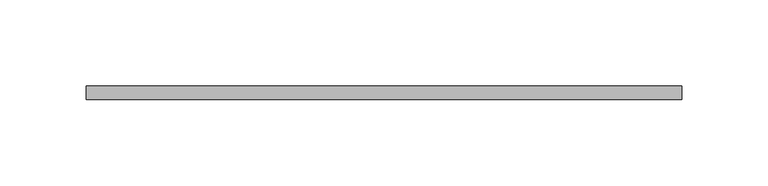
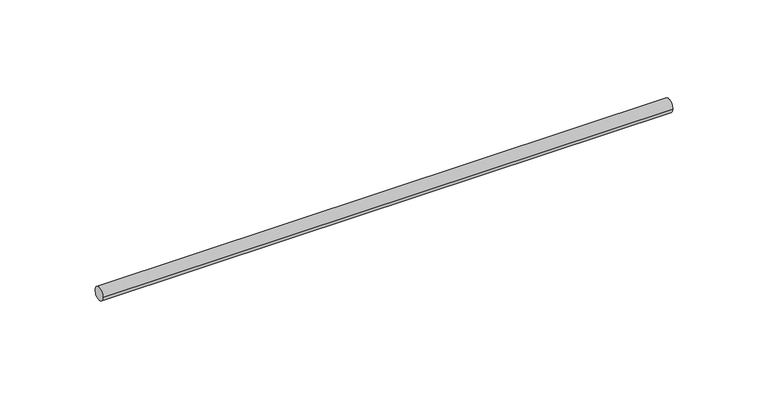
"""IFC4 building model written with IfcOpenShell, lengths in millimetres: valve geometry, Superfix Threaded Rod (used for clamps) : Threaded Rod  Extra  - 1000 mm (used for clamps)."""

from ifc_helpers import new_model, si_unit, point, frame, origin, origin_2d, place, context, project, spatial, circle_curve, trimmed, segment, composite_curve, outline, extrude, source, transform, mapped, element, save


def valve_1a68cbfa(model_context):
    return source(origin(), model_context, "Body", "SweptSolid", [
        extrude(outline(composite_curve([segment(trimmed(circle_curve(origin_2d(), 4.0), [point((-4.0, 0.0))], [point((4.0, 0.0))], False, "CARTESIAN"), True, "CONTINUOUS"), segment(trimmed(circle_curve(origin_2d(), 4.0), [point((4.0, 0.0))], [point((-4.0, 0.0))], False, "CARTESIAN"), True, "CONTINUOUS")], self_intersect=False)), frame((-10.0, 0.0, 0.0), z_axis=(1.0, 0.0, 0.0), x_axis=(0.0, 1.0, 0.0)), (0.0, 0.0, 1.0), 345.5),
    ])


if __name__ == "__main__":
    model = new_model("IFC4")
    model_context = context("Model", 3, world=origin())
    ifc_project = project(units=[si_unit("LENGTHUNIT", "METRE", prefix="MILLI")], contexts=[model_context])
    site = spatial("IfcSite", under=ifc_project)
    building = spatial("IfcBuilding", under=site)
    placement = place(None, origin())
    valve_shape = valve_1a68cbfa(model_context)
    element("IfcValve", 1, ObjectType="Superfix Threaded Rod (used for clamps) : Threaded Rod  Extra  - 1000 mm (used for clamps)", at=placement, inside=building, context=model_context, shape_type="MappedRepresentation", body=[
        mapped(valve_shape, transform((0.0, 0.0, 0.0), x_axis=(1.0, 0.0, 0.0), y_axis=(0.0, 1.0, 0.0), z_axis=(0.0, 0.0, 1.0))),
    ])
    save(model, "model.ifc")
